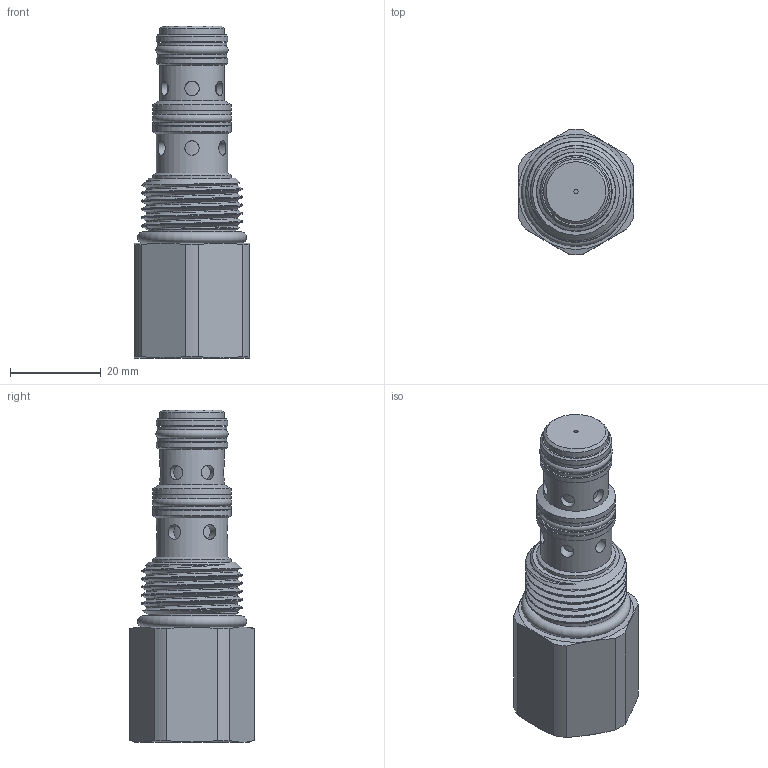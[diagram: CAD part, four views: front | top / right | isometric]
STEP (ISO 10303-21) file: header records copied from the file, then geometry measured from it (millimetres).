
FILE_DESCRIPTION(/* description */ (''),/* implementation_level */ '2;1');
FILE_NAME(/* name */ 'P:\EARS\EAR16xx\EAR1683 - catalog pages changes\Group1_Distribution 11_22_22\RTeck Agency_Tom\_SolidModels\_Models\HDFPCS00.stp',/* time_stamp */ '2022-12-20T12:54:06-06:00',/* author */ ('Michael'),/* organization */ (''),/* preprocessor_version */ 'ST-DEVELOPER v17.2',/* originating_system */ 'Autodesk Inventor 2019',/* authorisation */ '');
FILE_SCHEMA (('AUTOMOTIVE_DESIGN { 1 0 10303 214 3 1 1 }'));
Length unit declared in the file: inch
Products named in the file (1): HDFPCS00
Bounding box: 25.4 x 27.74 x 73.25 mm (x, y, z)
Volume: 25194.3 mm3; surface area: 8763.4 mm2
Topology: 3 solids, 5 shells, 145 faces, 376 edges, 267 vertices
Faces by surface type: cylinder 65, plane 39, cone 24, torus 12, bspline 5
Full cylindrical faces by diameter (mm): 0.914 x1, 3.175 x12, 8.572 x1, 8.763 x1, 10.998 x1, 11.097 x1, 11.11 x1, 11.176 x1, 12.992 x4, 14.224 x1, 14.275 x1, 14.592 x2, 14.605 x2, 15.392 x2, 15.748 x1, 15.773 x2, 17.302 x2, 17.323 x1, 17.374 x2, 19.621 x2, 22.225 x4
Entity records: 9727 total; most frequent: CARTESIAN_POINT 5982, ORIENTED_EDGE 752, DIRECTION 720, EDGE_CURVE 376, AXIS2_PLACEMENT_3D 321, VERTEX_POINT 267, EDGE_LOOP 184, CIRCLE 180
